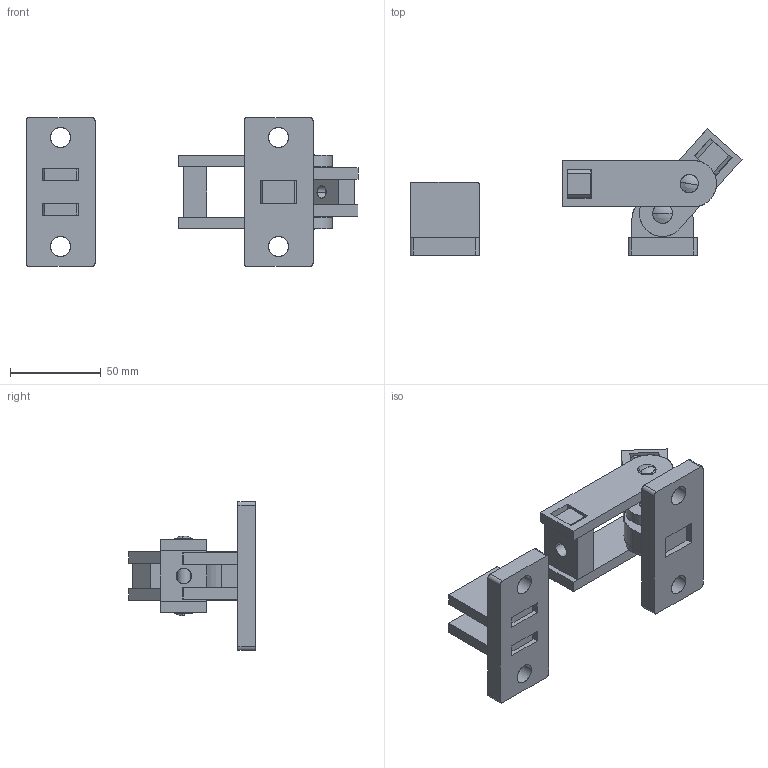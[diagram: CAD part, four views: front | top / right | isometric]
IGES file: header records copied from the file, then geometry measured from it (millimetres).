
Start section: SolidWorks IGES file using analytic representation for surfaces
Global section: file name: C:\Projetos\Grampos\Trincos\KFT-10\KFT-10.igs; native system: SolidWorks 2011; preprocessor: SolidWorks 2011; author: Usuario; date: 110512.123636; units: millimetre
Bounding box: 182.74 x 69.64 x 82 mm (x, y, z)
Surface area: 56456.5 mm2 (no closed solid volume)
Topology: 0 solids, 0 shells, 197 faces, 2462 edges, 2458 vertices
Faces by surface type: bspline 137, revolution 60
